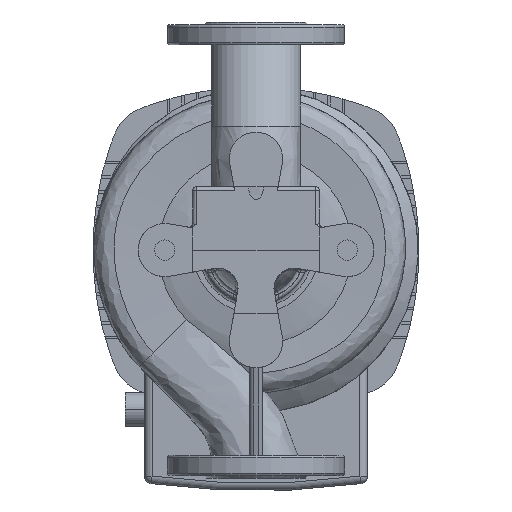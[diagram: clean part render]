
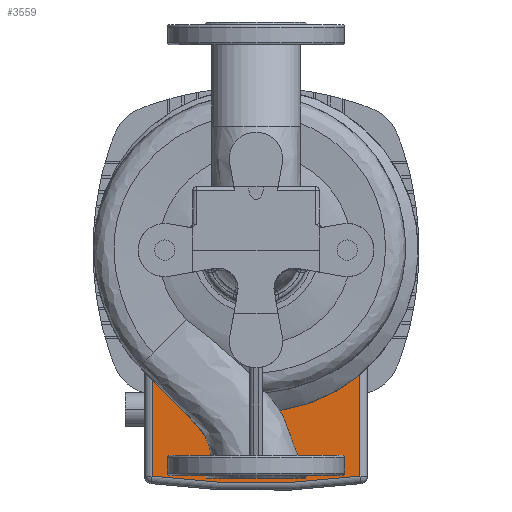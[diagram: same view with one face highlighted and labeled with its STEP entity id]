
A CAD part, front view. The second image highlights one B-rep face of the part: STEP entity #3559.
In plain terms, the highlighted planar face has unit normal (0, -1, 0) as drawn and (0, 0, 1) by its records, which use the part's own axes.
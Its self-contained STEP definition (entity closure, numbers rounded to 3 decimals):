
#212 = CARTESIAN_POINT ( 'NONE',  ( -82., 128.5, -140.5 ) ) ;
#325 = VECTOR ( 'NONE', #3287, 1000. ) ;
#642 = DIRECTION ( 'NONE',  ( 0., 0., 1. ) ) ;
#652 = CARTESIAN_POINT ( 'NONE',  ( -82., 72.569, -140.5 ) ) ;
#848 = CARTESIAN_POINT ( 'NONE',  ( 68., 128.5, -140.5 ) ) ;
#2305 = CARTESIAN_POINT ( 'NONE',  ( 0., -423., -140.5 ) ) ;
#2641 = DIRECTION ( 'NONE',  ( 0., 0., -1. ) ) ;
#2673 = DIRECTION ( 'NONE',  ( 0., -1., 0. ) ) ;
#2900 = FACE_OUTER_BOUND ( 'NONE', #14581, .T. ) ;
#3287 = DIRECTION ( 'NONE',  ( 0., 1., 0. ) ) ;
#3559 = ADVANCED_FACE ( 'NONE', ( #2900 ), #19615, .T. ) ;
#7434 = ORIENTED_EDGE ( 'NONE', *, *, #7822, .T. ) ;
#7533 = ORIENTED_EDGE ( 'NONE', *, *, #16666, .T. ) ;
#7822 = EDGE_CURVE ( 'NONE', #10105, #14026, #17956, .T. ) ;
#8546 = AXIS2_PLACEMENT_3D ( 'NONE', #2305, #642, #11188 ) ;
#9197 = DIRECTION ( 'NONE',  ( 1., 0., 0. ) ) ;
#10105 = VERTEX_POINT ( 'NONE', #20505 ) ;
#10400 = CARTESIAN_POINT ( 'NONE',  ( 82., 178.436, -140.5 ) ) ;
#11188 = DIRECTION ( 'NONE',  ( 0., -1., 0. ) ) ;
#12482 = CIRCLE ( 'NONE', #8546, 607. ) ;
#12890 = CARTESIAN_POINT ( 'NONE',  ( -82., 178.436, -140.5 ) ) ;
#12948 = LINE ( 'NONE', #212, #26466 ) ;
#14026 = VERTEX_POINT ( 'NONE', #10400 ) ;
#14581 = EDGE_LOOP ( 'NONE', ( #16945, #7434, #15023, #7533 ) ) ;
#14895 = AXIS2_PLACEMENT_3D ( 'NONE', #848, #25885, #23847 ) ;
#15023 = ORIENTED_EDGE ( 'NONE', *, *, #16057, .T. ) ;
#15232 = CARTESIAN_POINT ( 'NONE',  ( 0., 0., -140.5 ) ) ;
#15259 = VERTEX_POINT ( 'NONE', #652 ) ;
#15424 = CIRCLE ( 'NONE', #18503, 109.5 ) ;
#16057 = EDGE_CURVE ( 'NONE', #14026, #26363, #12482, .T. ) ;
#16666 = EDGE_CURVE ( 'NONE', #26363, #15259, #12948, .T. ) ;
#16945 = ORIENTED_EDGE ( 'NONE', *, *, #23291, .T. ) ;
#17956 = LINE ( 'NONE', #23715, #325 ) ;
#18503 = AXIS2_PLACEMENT_3D ( 'NONE', #15232, #2641, #9197 ) ;
#19615 = PLANE ( 'NONE',  #14895 ) ;
#20505 = CARTESIAN_POINT ( 'NONE',  ( 82., 72.569, -140.5 ) ) ;
#23291 = EDGE_CURVE ( 'NONE', #15259, #10105, #15424, .T. ) ;
#23715 = CARTESIAN_POINT ( 'NONE',  ( 82., 128.5, -140.5 ) ) ;
#23847 = DIRECTION ( 'NONE',  ( 0., -1., 0. ) ) ;
#25885 = DIRECTION ( 'NONE',  ( 0., 0., 1. ) ) ;
#26363 = VERTEX_POINT ( 'NONE', #12890 ) ;
#26466 = VECTOR ( 'NONE', #2673, 1000. ) ;
